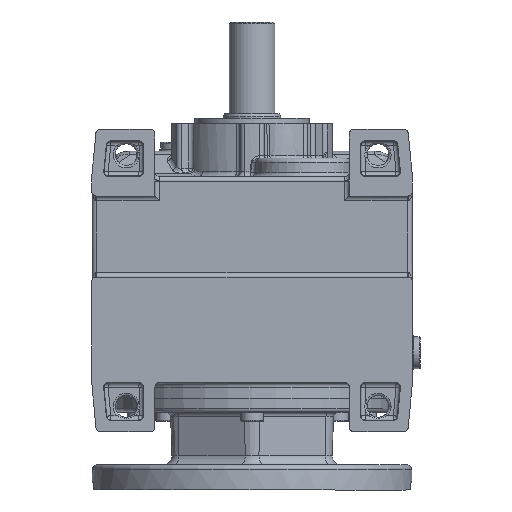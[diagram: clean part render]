
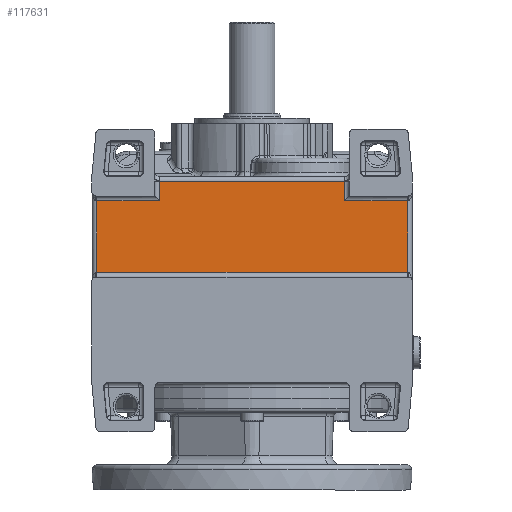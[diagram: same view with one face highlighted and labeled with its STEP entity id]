
A CAD part, front view. The second image highlights one B-rep face of the part: STEP entity #117631.
In plain terms, the highlighted planar face has unit normal (0, -1, 0).
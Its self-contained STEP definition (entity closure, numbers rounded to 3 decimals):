
#4427 = CARTESIAN_POINT ( 'NONE',  ( -67.929, -74., -33.57 ) ) ;
#4467 = LINE ( 'NONE', #4427, #18294 ) ;
#4520 = DIRECTION ( 'NONE',  ( -1., 0., 0. ) ) ;
#4521 = VECTOR ( 'NONE', #4520, 1000. ) ;
#4523 = CARTESIAN_POINT ( 'NONE',  ( 40.43, -74., -33.57 ) ) ;
#4524 = LINE ( 'NONE', #4523, #4521 ) ;
#4548 = DIRECTION ( 'NONE',  ( 0., 0., -1. ) ) ;
#4550 = VECTOR ( 'NONE', #4548, 1000. ) ;
#4552 = CARTESIAN_POINT ( 'NONE',  ( -67.929, -74., -113. ) ) ;
#4553 = LINE ( 'NONE', #4552, #4550 ) ;
#4570 = DIRECTION ( 'NONE',  ( 1., 0., 0. ) ) ;
#4572 = DIRECTION ( 'NONE',  ( 0., -1., 0. ) ) ;
#4574 = CARTESIAN_POINT ( 'NONE',  ( -70., -74., -113. ) ) ;
#4575 = AXIS2_PLACEMENT_3D ( 'NONE', #4574, #4572, #4570 ) ;
#4579 = PLANE ( 'NONE',  #4575 ) ;
#4581 = FACE_OUTER_BOUND ( 'NONE', #117636, .T. ) ;
#4583 = CARTESIAN_POINT ( 'NONE',  ( -67.929, -74., -64.93 ) ) ;
#4585 = CARTESIAN_POINT ( 'NONE',  ( -67.929, -74., -33.57 ) ) ;
#4616 = CARTESIAN_POINT ( 'NONE',  ( 40.43, -74., -33.57 ) ) ;
#4618 = DIRECTION ( 'NONE',  ( 1., 0., 0. ) ) ;
#4620 = VECTOR ( 'NONE', #4618, 1000. ) ;
#4622 = CARTESIAN_POINT ( 'NONE',  ( 67.929, -74., -64.93 ) ) ;
#4633 = LINE ( 'NONE', #4622, #4620 ) ;
#4641 = DIRECTION ( 'NONE',  ( -1., 0., 0. ) ) ;
#4642 = VECTOR ( 'NONE', #4641, 1000. ) ;
#4644 = CARTESIAN_POINT ( 'NONE',  ( -67.999, -74., -25. ) ) ;
#4646 = LINE ( 'NONE', #4644, #4642 ) ;
#4650 = CARTESIAN_POINT ( 'NONE',  ( 40.43, -74., -25. ) ) ;
#4651 = DIRECTION ( 'NONE',  ( 0., 0., 1. ) ) ;
#4653 = VECTOR ( 'NONE', #4651, 1000. ) ;
#4655 = CARTESIAN_POINT ( 'NONE',  ( 40.43, -74., -25. ) ) ;
#4656 = LINE ( 'NONE', #4655, #4653 ) ;
#4888 = CARTESIAN_POINT ( 'NONE',  ( -40.43, -74., -33.57 ) ) ;
#4890 = CARTESIAN_POINT ( 'NONE',  ( -40.43, -74., -25. ) ) ;
#4892 = DIRECTION ( 'NONE',  ( 0., 0., -1. ) ) ;
#4894 = VECTOR ( 'NONE', #4892, 1000. ) ;
#4896 = CARTESIAN_POINT ( 'NONE',  ( -40.43, -74., -31.5 ) ) ;
#4898 = LINE ( 'NONE', #4896, #4894 ) ;
#15182 = CARTESIAN_POINT ( 'NONE',  ( 67.929, -74., -64.93 ) ) ;
#15184 = CARTESIAN_POINT ( 'NONE',  ( 67.929, -74., -33.57 ) ) ;
#15794 = DIRECTION ( 'NONE',  ( 0., 0., 1. ) ) ;
#15796 = VECTOR ( 'NONE', #15794, 1000. ) ;
#15799 = CARTESIAN_POINT ( 'NONE',  ( 67.929, -74., -113. ) ) ;
#15800 = LINE ( 'NONE', #15799, #15796 ) ;
#18294 = VECTOR ( 'NONE', #19165, 1000. ) ;
#19165 = DIRECTION ( 'NONE',  ( -1., 0., 0. ) ) ;
#116898 = VERTEX_POINT ( 'NONE', #15184 ) ;
#116900 = VERTEX_POINT ( 'NONE', #15182 ) ;
#116970 = EDGE_CURVE ( 'NONE', #116900, #116898, #15800, .T. ) ;
#117628 = EDGE_CURVE ( 'NONE', #117702, #117629, #4467, .T. ) ;
#117629 = VERTEX_POINT ( 'NONE', #4585 ) ;
#117630 = VERTEX_POINT ( 'NONE', #4583 ) ;
#117631 = ADVANCED_FACE ( 'NONE', ( #4581 ), #4579, .T. ) ;
#117632 = ORIENTED_EDGE ( 'NONE', *, *, #117700, .T. ) ;
#117636 = EDGE_LOOP ( 'NONE', ( #117632, #117703, #117637, #117651, #117653, #117642, #117644, #117647 ) ) ;
#117637 = ORIENTED_EDGE ( 'NONE', *, *, #117638, .T. ) ;
#117638 = EDGE_CURVE ( 'NONE', #117629, #117630, #4553, .T. ) ;
#117642 = ORIENTED_EDGE ( 'NONE', *, *, #117643, .T. ) ;
#117643 = EDGE_CURVE ( 'NONE', #116898, #117654, #4524, .T. ) ;
#117644 = ORIENTED_EDGE ( 'NONE', *, *, #117645, .T. ) ;
#117645 = EDGE_CURVE ( 'NONE', #117654, #117646, #4656, .T. ) ;
#117646 = VERTEX_POINT ( 'NONE', #4650 ) ;
#117647 = ORIENTED_EDGE ( 'NONE', *, *, #117648, .T. ) ;
#117648 = EDGE_CURVE ( 'NONE', #117646, #117701, #4646, .T. ) ;
#117651 = ORIENTED_EDGE ( 'NONE', *, *, #117652, .T. ) ;
#117652 = EDGE_CURVE ( 'NONE', #117630, #116900, #4633, .T. ) ;
#117653 = ORIENTED_EDGE ( 'NONE', *, *, #116970, .T. ) ;
#117654 = VERTEX_POINT ( 'NONE', #4616 ) ;
#117700 = EDGE_CURVE ( 'NONE', #117701, #117702, #4898, .T. ) ;
#117701 = VERTEX_POINT ( 'NONE', #4890 ) ;
#117702 = VERTEX_POINT ( 'NONE', #4888 ) ;
#117703 = ORIENTED_EDGE ( 'NONE', *, *, #117628, .T. ) ;
